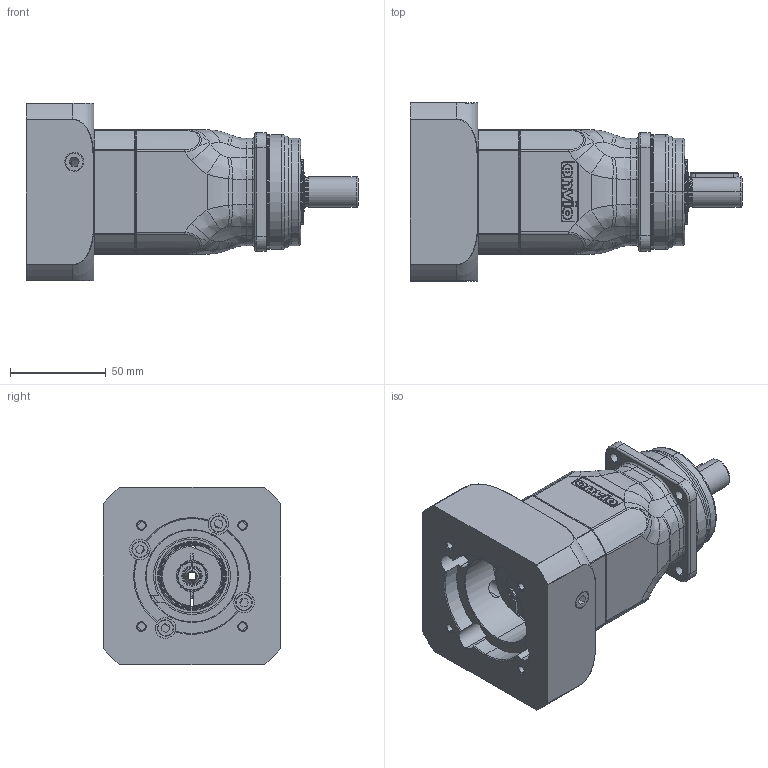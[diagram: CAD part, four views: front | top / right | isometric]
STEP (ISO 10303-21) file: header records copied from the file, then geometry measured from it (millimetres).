
FILE_DESCRIPTION (( 'STEP AP214' ), '1' );
FILE_NAME ('AH-010-RRR-FFF-MMM-S-LL-XXX-CXX-0000.STEP', '2019-10-11T20:31:02', ( '' ), ( '' ), 'SwSTEP 2.0', 'SolidWorks 2019', '' );
FILE_SCHEMA (( 'AUTOMOTIVE_DESIGN' ));
Length unit declared in the file: millimetre
Products named in the file (1): AH-010-RRR-FFF-MMM-S-LL-XXX-CXX-0000
Bounding box: 173.5 x 93 x 93 mm (x, y, z)
Surface area: 69384.9 mm2 (no closed solid volume)
Topology: 0 solids, 80 shells, 812 faces, 3468 edges, 2684 vertices
Faces by surface type: cylinder 268, plane 219, torus 160, bspline 89, cone 76
Entity records: 54964 total; most frequent: CARTESIAN_POINT 19862, DIRECTION 4942, ORIENTED_EDGE 4875, EDGE_CURVE 3462, VERTEX_POINT 2684, AXIS2_PLACEMENT_3D 1724, VECTOR 1494, LINE 1494
